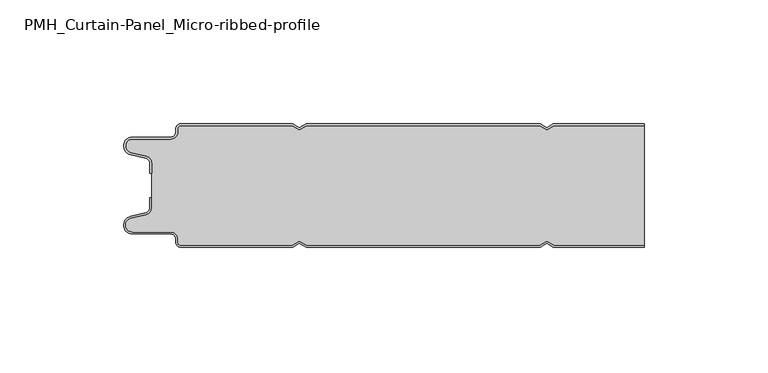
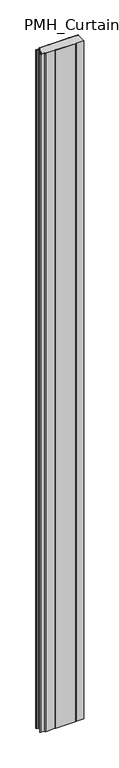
"""IFC4 building model written with IfcOpenShell, lengths in millimetres: plate geometry, PMH_Curtain-Panel_Micro-ribbed-profile : ACH_PMH_Stone-wool-Panel_50M."""

import ifcopenshell
import ifcopenshell.guid

model = None  # the IFC model being written
_history = None  # IfcOwnerHistory: only IFC2X3 demands one
_inside = {}  # id of a spatial element -> (the spatial element, [elements in it])
_under = {}  # id of a project, library or spatial element -> (it, [spatial elements below it])
_declared = {}  # id of a project -> (the project, [libraries it declares])
_typed = {}  # id of a type object -> (the type object, [elements of that type])
_made_of = {}  # id of a material, layer set ... -> (it, [elements and type objects made of it])


def new_model(schema):
    """Start an empty IFC model of exactly this schema.

    Asked for "IFC4X3", IfcOpenShell would pick the latest addendum, in which some entities
    have other attributes; the version numbers below select the first issue.
    IFC2X3 requires an IfcOwnerHistory on every rooted entity: one is made here for all.
    """
    global model, _history
    if schema == "IFC4X3":
        model = ifcopenshell.file(schema_version=(4, 3, 0, 0))
    else:
        model = ifcopenshell.file(schema=schema)
    _inside.clear()
    _under.clear()
    _declared.clear()
    _typed.clear()
    _made_of.clear()
    _history = None
    if model.schema == "IFC2X3":
        org = make("IfcOrganization", Name="unknown")
        user = make(
            "IfcPersonAndOrganization",
            ThePerson=make("IfcPerson", FamilyName="unknown"),
            TheOrganization=org,
        )
        app = make(
            "IfcApplication",
            ApplicationDeveloper=org,
            Version="unknown",
            ApplicationFullName="unknown",
            ApplicationIdentifier="unknown",
        )
        _history = make(
            "IfcOwnerHistory",
            OwningUser=user,
            OwningApplication=app,
            ChangeAction="ADDED",
            CreationDate=0,
        )
    return model


def make(cls, **values):
    """One entity of the class cls with the attributes given. An attribute that is None is left unset."""
    return model.create_entity(
        cls, **{name: value for name, value in values.items() if value is not None}
    )


def rooted(cls, **values):
    """An entity with a GlobalId (a new one), such as an element, a storey or a relation."""
    return make(cls, GlobalId=ifcopenshell.guid.new(), OwnerHistory=_history, **values)


def si_unit(unit_type, name, prefix=None):
    """IfcSIUnit, for example si_unit("LENGTHUNIT", "METRE", prefix="MILLI")."""
    return make("IfcSIUnit", UnitType=unit_type, Prefix=prefix, Name=name)


def assignment(units):
    """IfcUnitAssignment: the units of a project."""
    return None if units is None else make("IfcUnitAssignment", Units=units)


def point(xyz):
    """IfcCartesianPoint."""
    return None if xyz is None else make("IfcCartesianPoint", Coordinates=xyz)


def direction(xyz):
    """IfcDirection."""
    return None if xyz is None else make("IfcDirection", DirectionRatios=xyz)


def frame(location, z_axis=None, x_axis=None):
    """IfcAxis2Placement3D, a coordinate frame: its origin and axes. An axis left out is left unset."""
    return make(
        "IfcAxis2Placement3D",
        Location=point(location),
        Axis=direction(z_axis),
        RefDirection=direction(x_axis),
    )


def frame_2d(location, x_axis=None):
    """IfcAxis2Placement2D, a coordinate frame in the plane: its origin and x axis."""
    return make(
        "IfcAxis2Placement2D", Location=point(location), RefDirection=direction(x_axis)
    )


def origin():
    """The frame at (0, 0, 0) with its axes left unset."""
    return frame((0.0, 0.0, 0.0))


def origin_with_axes():
    """The frame at (0, 0, 0) with the z axis (0, 0, 1) and the x axis (1, 0, 0) written out."""
    return frame((0.0, 0.0, 0.0), z_axis=(0.0, 0.0, 1.0), x_axis=(1.0, 0.0, 0.0))


def place(relative_to, where):
    """IfcLocalPlacement: puts the frame where relative to a parent placement (None: the world)."""
    return make(
        "IfcLocalPlacement", PlacementRelTo=relative_to, RelativePlacement=where
    )


def context(
    kind, dimensions, precision=None, world=None, true_north=None, identifier=None
):
    """IfcGeometricRepresentationContext, for example the 3D "Model" context."""
    return make(
        "IfcGeometricRepresentationContext",
        ContextIdentifier=identifier,
        ContextType=kind,
        CoordinateSpaceDimension=dimensions,
        Precision=precision,
        WorldCoordinateSystem=world,
        TrueNorth=true_north,
    )


def project(units=None, contexts=None):
    """IfcProject with its units and contexts."""
    return rooted(
        "IfcProject",
        Name="project",
        RepresentationContexts=contexts,
        UnitsInContext=assignment(units),
    )


def spatial(cls, under=None, at=None, **own):
    """A site, building, storey or space (cls), placed at a placement, below another one or the project."""
    s = rooted(cls, ObjectPlacement=at, **own)
    if under is not None:
        _under.setdefault(under.id(), (under, []))[1].append(s)
    return s


def polyline(points):
    """IfcPolyline through the points."""
    return make("IfcPolyline", Points=[point(p) for p in points])


def circle_curve(where, radius):
    """IfcCircle in the frame where."""
    return make("IfcCircle", Position=where, Radius=radius)


def trimmed(basis, trim1, trim2, sense, master):
    """IfcTrimmedCurve: the piece of a basis curve between two trims."""
    return make(
        "IfcTrimmedCurve",
        BasisCurve=basis,
        Trim1=trim1,
        Trim2=trim2,
        SenseAgreement=sense,
        MasterRepresentation=master,
    )


def segment(curve, same_sense, transition):
    """IfcCompositeCurveSegment."""
    return make(
        "IfcCompositeCurveSegment",
        Transition=transition,
        SameSense=same_sense,
        ParentCurve=curve,
    )


def composite_curve(segments, self_intersect=None):
    """IfcCompositeCurve: segments joined end to end."""
    return make("IfcCompositeCurve", Segments=segments, SelfIntersect=self_intersect)


def outline(outer, holes=None, kind="AREA"):
    """IfcArbitraryClosedProfileDef: a profile drawn as a closed curve; with holes, ...WithVoids."""
    if holes is None:
        return make("IfcArbitraryClosedProfileDef", ProfileType=kind, OuterCurve=outer)
    return make(
        "IfcArbitraryProfileDefWithVoids",
        ProfileType=kind,
        OuterCurve=outer,
        InnerCurves=holes,
    )


def extrude(swept, where, along, depth):
    """IfcExtrudedAreaSolid: the profile swept, set in the frame where, extruded along a direction by depth."""
    return make(
        "IfcExtrudedAreaSolid",
        SweptArea=swept,
        Position=where,
        ExtrudedDirection=direction(along),
        Depth=depth,
    )


def shape(context_of_items, identifier, shape_type, items):
    """IfcShapeRepresentation: the items that make up one representation, for example the "Body"."""
    return make(
        "IfcShapeRepresentation",
        ContextOfItems=context_of_items,
        RepresentationIdentifier=identifier,
        RepresentationType=shape_type,
        Items=items,
    )


def source(mapping_origin, context_of_items, identifier, shape_type, items):
    """IfcRepresentationMap: a shape defined once, which mapped items show again and again."""
    return make(
        "IfcRepresentationMap",
        MappingOrigin=mapping_origin,
        MappedRepresentation=shape(context_of_items, identifier, shape_type, items),
    )


def transform(
    local_origin,
    x_axis=None,
    y_axis=None,
    z_axis=None,
    scale=None,
    scale2=None,
    scale3=None,
    uniform=True,
):
    """IfcCartesianTransformationOperator3D, or its non-uniform kind. x_axis, y_axis, z_axis: its Axis1, 2, 3."""
    if uniform:
        return make(
            "IfcCartesianTransformationOperator3D",
            Axis1=direction(x_axis),
            Axis2=direction(y_axis),
            LocalOrigin=point(local_origin),
            Scale=scale,
            Axis3=direction(z_axis),
        )
    return make(
        "IfcCartesianTransformationOperator3DnonUniform",
        Axis1=direction(x_axis),
        Axis2=direction(y_axis),
        LocalOrigin=point(local_origin),
        Scale=scale,
        Axis3=direction(z_axis),
        Scale2=scale2,
        Scale3=scale3,
    )


def mapped(mapping_source, mapping_target):
    """IfcMappedItem: shows the shape of a source again, moved by a transform."""
    return make(
        "IfcMappedItem", MappingSource=mapping_source, MappingTarget=mapping_target
    )


def made_of(thing, what):
    """Note that an element or type object is made of a material, layer set ...; save() writes the relation."""
    if what is not None:
        _made_of.setdefault(what.id(), (what, []))[1].append(thing)
    return thing


def element(
    cls,
    number,
    at=None,
    inside=None,
    cuts=None,
    type_object=None,
    material=None,
    context=None,
    identifier="Body",
    shape_type=None,
    held_by="IfcProductDefinitionShape",
    body=None,
    shapes=None,
    **own,
):
    """One element of the class cls, such as IfcWall. Its Tag is "e" and its number.

    at: its placement. inside: the storey or other place that contains it. cuts: it is an
    opening in that element (IfcRelVoidsElement). A single representation is given by context,
    identifier, shape_type and body (its items); several are given by shapes. held_by: the class
    of the entity that holds the representations. save() writes the other relations.
    """
    e = rooted(cls, Tag="e%d" % number, ObjectPlacement=at, **own)
    if body is not None:
        shapes = [shape(context, identifier, shape_type, body)]
    if shapes is not None:
        e.Representation = make(held_by, Representations=shapes)
    if inside is not None:
        _inside.setdefault(inside.id(), (inside, []))[1].append(e)
    if cuts is not None:
        rooted(
            "IfcRelVoidsElement", RelatingBuildingElement=cuts, RelatedOpeningElement=e
        )
    if type_object is not None:
        _typed.setdefault(type_object.id(), (type_object, []))[1].append(e)
    return made_of(e, material)


def aggregate(whole, parts):
    """IfcRelAggregates: a whole, such as a stair, and the parts it consists of."""
    return rooted("IfcRelAggregates", RelatingObject=whole, RelatedObjects=parts)


def save(model, path):
    """Write the relations noted so far, then the file.

    IfcRelAggregates (storeys below a building ...), IfcRelContainedInSpatialStructure (elements
    in a storey), IfcRelDefinesByType, IfcRelAssociatesMaterial and IfcRelDeclares: one each for
    every whole, place, type object, material and project.
    """
    for whole, parts in _under.values():
        aggregate(whole, parts)
    for where, things in _inside.values():
        rooted(
            "IfcRelContainedInSpatialStructure",
            RelatedElements=things,
            RelatingStructure=where,
        )
    for kind, things in _typed.values():
        rooted("IfcRelDefinesByType", RelatedObjects=things, RelatingType=kind)
    for what, things in _made_of.values():
        rooted("IfcRelAssociatesMaterial", RelatedObjects=things, RelatingMaterial=what)
    for by, libraries in _declared.values():
        rooted("IfcRelDeclares", RelatingContext=by, RelatedDefinitions=libraries)
    model.write(path)


def pmh_curtain_panel_micro_ribbed_profile_7f007963(model_context):
    return source(origin(), model_context, "Body", "SweptSolid", [
        extrude(outline(composite_curve([segment(trimmed(circle_curve(frame_2d((-102.0119739, -15.878557)), 2.0), [point((-100.0119739, -15.878557))], [point((-101.5620718, -13.9298169))], True, "CARTESIAN"), True, "CONTINUOUS"), segment(polyline([(-101.5620718, -13.9298169), (-107.7217978, -12.507732)]), True, "CONTINUOUS"), segment(trimmed(circle_curve(frame_2d((-106.9119739, -9.0)), 3.6), [point((-107.7217978, -12.507732))], [point((-106.9119739, -5.4))], False, "CARTESIAN"), True, "CONTINUOUS"), segment(polyline([(-106.9119739, -5.4), (-91.4119739, -5.4)]), True, "CONTINUOUS"), segment(trimmed(circle_curve(frame_2d((-91.4119739, -3.4)), 2.0), [point((-91.4119739, -5.4))], [point((-89.4119739, -3.4))], True, "CARTESIAN"), True, "CONTINUOUS"), segment(polyline([(-89.4119739, -3.4), (-89.4119739, -2.0)]), True, "CONTINUOUS"), segment(trimmed(circle_curve(frame_2d((-87.4119739, -2.0)), 2.0), [point((-89.4119739, -2.0))], [point((-87.4119739, 0.0))], False, "CARTESIAN"), True, "CONTINUOUS"), segment(polyline([(-87.4119739, 0.0), (-42.1119734, 0.0), (-39.4119739, -1.5588455), (-36.7119745, 0.0), (57.8880266, 0.0), (60.5880261, -1.5588455), (63.2880255, 0.0), (100.0119739, 0.0), (100.0119739, -0.8), (63.5023849, -0.8), (60.5880261, -2.482606), (57.6736672, -0.8), (-36.4976151, -0.8), (-39.4119739, -2.482606), (-42.3263328, -0.8), (-87.4119739, -0.8)]), True, "CONTINUOUS"), segment(trimmed(circle_curve(frame_2d((-87.4119739, -2.0)), 1.2), [point((-87.4119739, -0.8))], [point((-88.6119739, -2.0))], True, "CARTESIAN"), True, "CONTINUOUS"), segment(polyline([(-88.6119739, -2.0), (-88.6119739, -3.4)]), True, "CONTINUOUS"), segment(trimmed(circle_curve(frame_2d((-91.4119739, -3.4)), 2.8), [point((-88.6119739, -3.4))], [point((-91.4119739, -6.2))], False, "CARTESIAN"), True, "CONTINUOUS"), segment(polyline([(-91.4119739, -6.2), (-106.9119739, -6.2)]), True, "CONTINUOUS"), segment(trimmed(circle_curve(frame_2d((-106.9119739, -9.0)), 2.8), [point((-106.9119739, -6.2))], [point((-107.541837, -11.7282362))], True, "CARTESIAN"), True, "CONTINUOUS"), segment(polyline([(-107.541837, -11.7282362), (-101.3821109, -13.150321)]), True, "CONTINUOUS"), segment(trimmed(circle_curve(frame_2d((-102.0119739, -15.878557)), 2.8), [point((-101.3821109, -13.150321))], [point((-99.2119739, -15.878557))], False, "CARTESIAN"), True, "CONTINUOUS"), segment(polyline([(-99.2119739, -15.878557), (-99.2119739, -20.0), (-100.0119739, -20.0), (-100.0119739, -15.878557)]), True, "CONTINUOUS")], self_intersect=False)), origin_with_axes(), (0.0, 0.0, 1.0), 3500.0),
        extrude(outline(composite_curve([segment(polyline([(-99.2119739, -34.1214426), (-99.2119739, -15.8785573)]), True, "CONTINUOUS"), segment(trimmed(circle_curve(frame_2d((-102.0119739, -15.8785573)), 2.8), [point((-99.2119739, -15.8785573))], [point((-101.3821109, -13.1503212))], True, "CARTESIAN"), True, "CONTINUOUS"), segment(polyline([(-101.3821109, -13.1503212), (-107.541837, -11.7282362)]), True, "CONTINUOUS"), segment(trimmed(circle_curve(frame_2d((-106.911974, -9.0)), 2.8), [point((-107.541837, -11.7282362))], [point((-106.911974, -6.2))], False, "CARTESIAN"), True, "CONTINUOUS"), segment(polyline([(-106.911974, -6.2), (-91.411974, -6.2)]), True, "CONTINUOUS"), segment(trimmed(circle_curve(frame_2d((-91.411974, -3.4)), 2.8), [point((-91.411974, -6.2))], [point((-88.611974, -3.4))], True, "CARTESIAN"), True, "CONTINUOUS"), segment(polyline([(-88.611974, -3.4), (-88.611974, -2.0)]), True, "CONTINUOUS"), segment(trimmed(circle_curve(frame_2d((-87.411974, -2.0)), 1.2), [point((-88.611974, -2.0))], [point((-87.411974, -0.8))], False, "CARTESIAN"), True, "CONTINUOUS"), segment(polyline([(-87.411974, -0.8), (-42.3263329, -0.8), (-39.411974, -2.482606), (-36.4976152, -0.8), (57.6736671, -0.8), (60.588026, -2.482606), (63.5023848, -0.8), (100.0119739, -0.8), (100.0119739, -49.2), (63.5023848, -49.2), (60.588026, -47.517394), (57.6736671, -49.2), (-36.4976152, -49.2), (-39.411974, -47.517394), (-42.3263329, -49.2), (-87.411974, -49.2)]), True, "CONTINUOUS"), segment(trimmed(circle_curve(frame_2d((-87.411974, -48.0)), 1.2), [point((-87.411974, -49.2))], [point((-88.611974, -48.0))], False, "CARTESIAN"), True, "CONTINUOUS"), segment(polyline([(-88.611974, -48.0), (-88.611974, -46.6)]), True, "CONTINUOUS"), segment(trimmed(circle_curve(frame_2d((-91.411974, -46.6)), 2.8), [point((-88.611974, -46.6))], [point((-91.411974, -43.8))], True, "CARTESIAN"), True, "CONTINUOUS"), segment(polyline([(-91.411974, -43.8), (-106.911974, -43.8)]), True, "CONTINUOUS"), segment(trimmed(circle_curve(frame_2d((-106.911974, -41.0)), 2.8), [point((-106.911974, -43.8))], [point((-107.541837, -38.2717638))], False, "CARTESIAN"), True, "CONTINUOUS"), segment(polyline([(-107.541837, -38.2717638), (-101.3821109, -36.8496788)]), True, "CONTINUOUS"), segment(trimmed(circle_curve(frame_2d((-102.0119739, -34.1214426)), 2.8), [point((-101.3821109, -36.8496788))], [point((-99.2119739, -34.1214426))], True, "CARTESIAN"), True, "CONTINUOUS")], self_intersect=False)), origin_with_axes(), (0.0, 0.0, 1.0), 3500.0),
        extrude(outline(composite_curve([segment(polyline([(-100.0119739, -34.121443), (-100.0119739, -30.0), (-99.2119739, -30.0), (-99.2119739, -34.121443)]), True, "CONTINUOUS"), segment(trimmed(circle_curve(frame_2d((-102.0119739, -34.121443)), 2.8), [point((-99.2119739, -34.121443))], [point((-101.3821109, -36.8496792))], False, "CARTESIAN"), True, "CONTINUOUS"), segment(polyline([(-101.3821109, -36.8496792), (-107.5418369, -38.271764)]), True, "CONTINUOUS"), segment(trimmed(circle_curve(frame_2d((-106.9119739, -41.0)), 2.8), [point((-107.5418369, -38.271764))], [point((-106.9119739, -43.8))], True, "CARTESIAN"), True, "CONTINUOUS"), segment(polyline([(-106.9119739, -43.8), (-91.4119739, -43.8)]), True, "CONTINUOUS"), segment(trimmed(circle_curve(frame_2d((-91.4119739, -46.6)), 2.8), [point((-91.4119739, -43.8))], [point((-88.6119739, -46.6))], False, "CARTESIAN"), True, "CONTINUOUS"), segment(polyline([(-88.6119739, -46.6), (-88.6119739, -48.0)]), True, "CONTINUOUS"), segment(trimmed(circle_curve(frame_2d((-87.4119739, -48.0)), 1.2), [point((-88.6119739, -48.0))], [point((-87.4119739, -49.2))], True, "CARTESIAN"), True, "CONTINUOUS"), segment(polyline([(-87.4119739, -49.2), (-42.3263328, -49.2), (-39.4119739, -47.517394), (-36.4976151, -49.2), (57.6736672, -49.2), (60.5880261, -47.517394), (63.5023849, -49.2), (100.0119739, -49.2), (100.0119739, -50.0), (63.2880255, -50.0), (60.5880261, -48.4411545), (57.8880266, -50.0), (-36.7119745, -50.0), (-39.4119739, -48.4411545), (-42.1119734, -50.0), (-87.4119739, -50.0)]), True, "CONTINUOUS"), segment(trimmed(circle_curve(frame_2d((-87.4119739, -48.0)), 2.0), [point((-87.4119739, -50.0))], [point((-89.4119739, -48.0))], False, "CARTESIAN"), True, "CONTINUOUS"), segment(polyline([(-89.4119739, -48.0), (-89.4119739, -46.6)]), True, "CONTINUOUS"), segment(trimmed(circle_curve(frame_2d((-91.4119739, -46.6)), 2.0), [point((-89.4119739, -46.6))], [point((-91.4119739, -44.6))], True, "CARTESIAN"), True, "CONTINUOUS"), segment(polyline([(-91.4119739, -44.6), (-106.9119739, -44.6)]), True, "CONTINUOUS"), segment(trimmed(circle_curve(frame_2d((-106.9119739, -41.0)), 3.6), [point((-106.9119739, -44.6))], [point((-107.7217979, -37.4922678))], False, "CARTESIAN"), True, "CONTINUOUS"), segment(polyline([(-107.7217979, -37.4922678), (-101.5620718, -36.070183)]), True, "CONTINUOUS"), segment(trimmed(circle_curve(frame_2d((-102.0119739, -34.121443)), 2.0), [point((-101.5620718, -36.070183))], [point((-100.0119739, -34.121443))], True, "CARTESIAN"), True, "CONTINUOUS")], self_intersect=False)), origin_with_axes(), (0.0, 0.0, 1.0), 3500.0),
    ])


if __name__ == "__main__":
    model = new_model("IFC4")
    model_context = context("Model", 3, world=origin())
    ifc_project = project(units=[si_unit("LENGTHUNIT", "METRE", prefix="MILLI")], contexts=[model_context])
    site = spatial("IfcSite", under=ifc_project)
    building = spatial("IfcBuilding", under=site)
    placement = place(None, origin())
    pmh_curtain_panel_micro_ribbed_profile_shape = pmh_curtain_panel_micro_ribbed_profile_7f007963(model_context)
    element("IfcPlate", 1, ObjectType="PMH_Curtain-Panel_Micro-ribbed-profile : ACH_PMH_Stone-wool-Panel_50M", at=placement, inside=building, context=model_context, shape_type="MappedRepresentation", body=[
        mapped(pmh_curtain_panel_micro_ribbed_profile_shape, transform((0.0, 0.0, 0.0), x_axis=(1.0, 0.0, 0.0), y_axis=(0.0, 1.0, 0.0), z_axis=(0.0, 0.0, 1.0))),
    ])
    save(model, "model.ifc")
